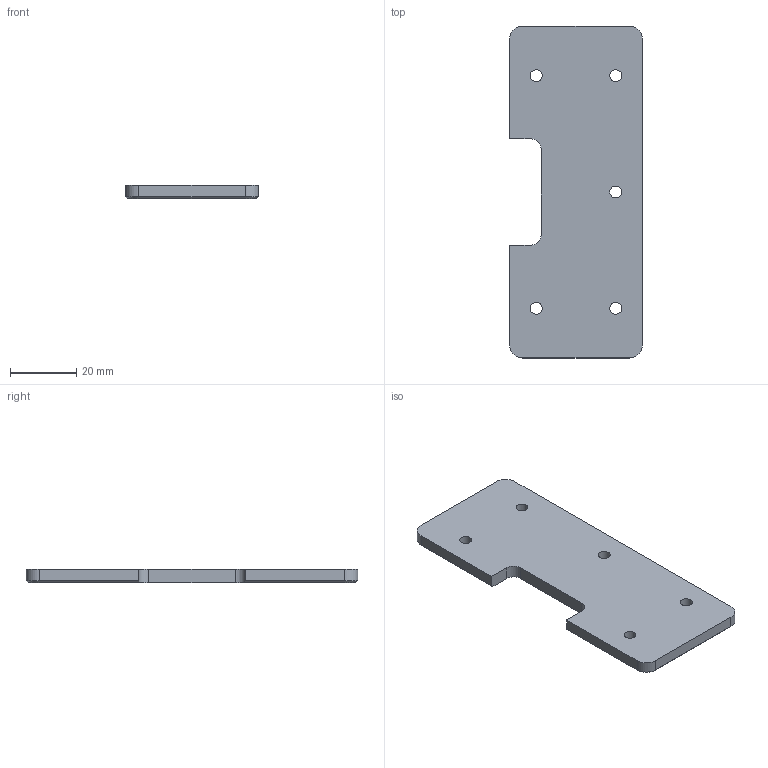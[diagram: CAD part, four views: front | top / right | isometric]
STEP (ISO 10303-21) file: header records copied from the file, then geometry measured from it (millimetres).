
FILE_DESCRIPTION(/* description */ ('STEP AP242 Edition 2','CAx-IF Rec.Pracs.---Representation and Presentation of Product Manufacturing Information (PMI)---4.0---2014-10-13','CAx-IF Rec.Pracs.---3D Tessellated Geometry---0.4---2014-09-14','2;1','CAx-IF Rec.Pracs.---User Defined Attributes---1.5---2016-08-15'),/* implementation_level */ '2;1');
FILE_NAME(/* name */ 'Chassis No Suspension - joiner_rear',/* time_stamp */ '2026-10-25T14:46:20Z',/* author */ (''),/* organization */ (''),/* preprocessor_version */ 'ST-DEVELOPER v20',/* originating_system */ 'ONSHAPE BY PTC INC, 1.222',/* authorisation */ ' ');
FILE_SCHEMA (('AP242_MANAGED_MODEL_BASED_3D_ENGINEERING_MIM_LF { 1 0 10303 442 3 1 4 }'));
Length unit declared in the file: metre
Products named in the file (1): joiner_rear
Bounding box: 40 x 100 x 4 mm (x, y, z)
Volume: 14497.8 mm3; surface area: 8569.3 mm2
Topology: 1 solids, 1 shells, 30 faces, 76 edges, 48 vertices
Faces by surface type: plane 15, cylinder 11, cone 4
Full cylindrical faces by diameter (mm): 3.6 x5
Entity records: 944 total; most frequent: DIRECTION 164, CARTESIAN_POINT 155, ORIENTED_EDGE 152, EDGE_CURVE 76, AXIS2_PLACEMENT_3D 57, LINE 50, VECTOR 50, VERTEX_POINT 48
